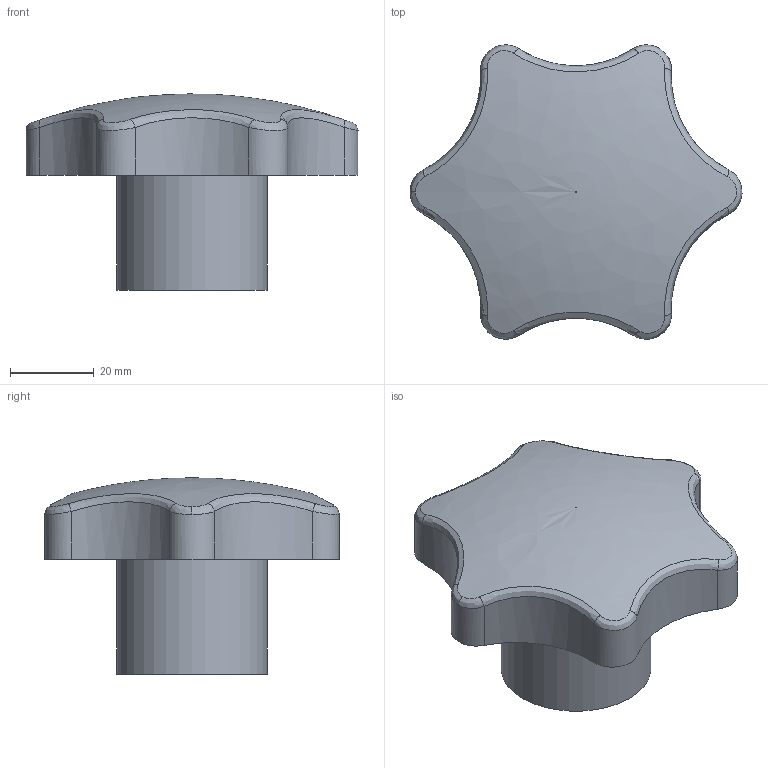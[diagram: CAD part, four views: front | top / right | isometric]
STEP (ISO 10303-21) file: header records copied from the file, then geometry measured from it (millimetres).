
FILE_DESCRIPTION( ('This file contains a STEP AP42 implementation' ,'as created by ZW3D STEP Interface translator.') ,'2;1' );
FILE_NAME( 'Rekojesc gwiazdowa typ C80.stp' ,'26 313.112739', (''), ('ZWCAD Software Co.'), 'Version 1.0', 'ZW3D to STEP translator', '' );
FILE_SCHEMA(('AP242_MANAGED_MODEL_BASED_3D_ENGINEERING_MIM_LF { 1 0 10303 442 1 1 4 }'));
Length unit declared in the file: millimetre
Products named in the file (1): 0
Bounding box: 79.49 x 70.46 x 47 mm (x, y, z)
Volume: 78766.3 mm3; surface area: 23305.5 mm2
Topology: 2 solids, 2 shells, 54 faces, 122 edges, 75 vertices
Faces by surface type: plane 19, cylinder 15, bspline 14, cone 4, torus 2
Full cylindrical faces by diameter (mm): 14 x1, 36 x1, 49 x1
Entity records: 2899 total; most frequent: CARTESIAN_POINT 1778, ORIENTED_EDGE 242, DIRECTION 179, EDGE_CURVE 121, VERTEX_POINT 75, AXIS2_PLACEMENT_3D 68, EDGE_LOOP 58, FACE_OUTER_BOUND 54
